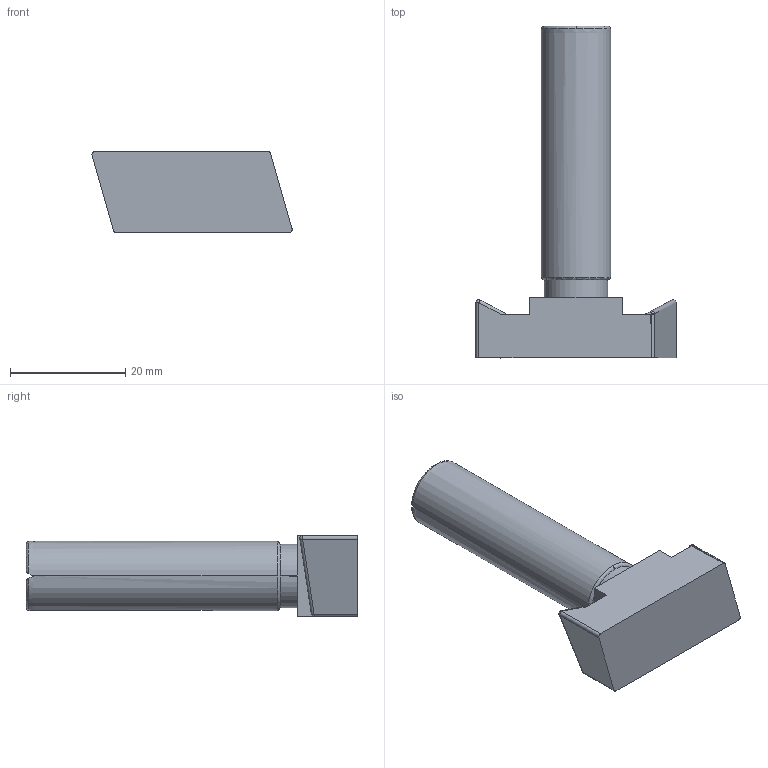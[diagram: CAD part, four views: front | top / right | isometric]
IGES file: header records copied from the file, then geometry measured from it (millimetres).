
Start section: 3D InterOp IGES (v. 2019 1.0.2), Spatial Corp. Copyright (c) 1999-2017.
Global section: file name: TPH1250.igs; native system: Spatial Corp.; preprocessor: 3D InterOp GENERIC/IGES 3.0; author: Noname; organization: Noname; date: 20210225.084059; units: millimetre
Bounding box: 34.68 x 57.5 x 14 mm (x, y, z)
Surface area: 3586.7 mm2 (no closed solid volume)
Topology: 0 solids, 0 shells, 40 faces, 202 edges, 198 vertices
Faces by surface type: revolution 24, extrusion 16
